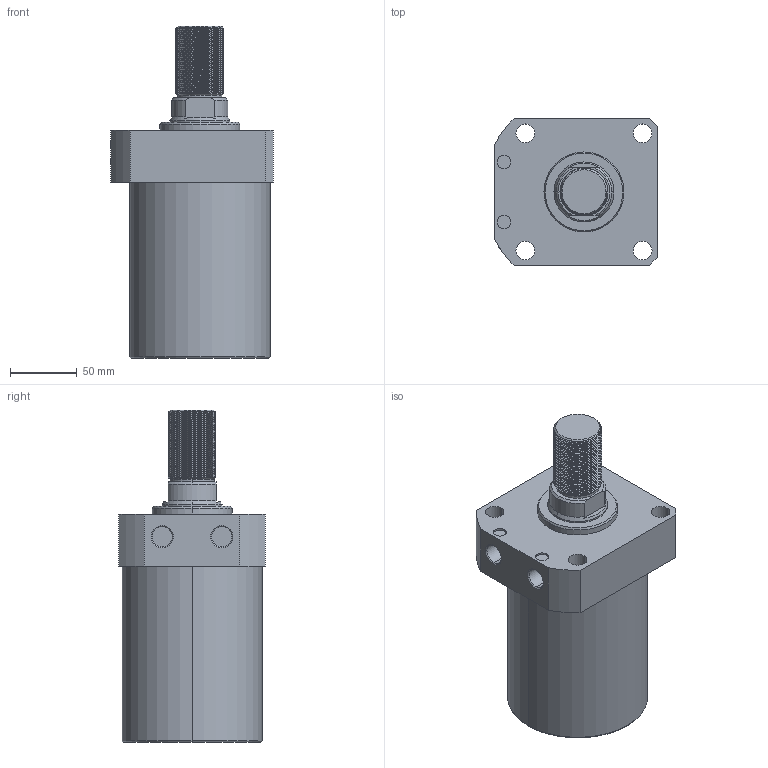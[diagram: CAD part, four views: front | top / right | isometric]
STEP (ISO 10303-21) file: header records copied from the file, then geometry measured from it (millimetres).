
FILE_DESCRIPTION (( 'STEP AP214' ), '1' );
FILE_NAME ('CLLR-105CT-085.STEP', '2020-01-10T03:00:06', ( 'Windows' ), ( 'Microsoft' ), 'SwSTEP 2.0', 'SolidWorks 2015', '' );
FILE_SCHEMA (( 'AUTOMOTIVE_DESIGN' ));
Length unit declared in the file: millimetre
Products named in the file (1): CLLR-105CT-085
Bounding box: 122 x 110 x 249 mm (x, y, z)
Volume: 1715532.7 mm3; surface area: 107772 mm2
Topology: 1 solids, 1 shells, 136 faces, 364 edges, 238 vertices
Faces by surface type: cylinder 96, plane 21, cone 15, torus 2, bspline 2
Entity records: 8233 total; most frequent: CARTESIAN_POINT 5102, ORIENTED_EDGE 728, DIRECTION 565, EDGE_CURVE 364, VERTEX_POINT 238, AXIS2_PLACEMENT_3D 215, EDGE_LOOP 152, FACE_OUTER_BOUND 136
